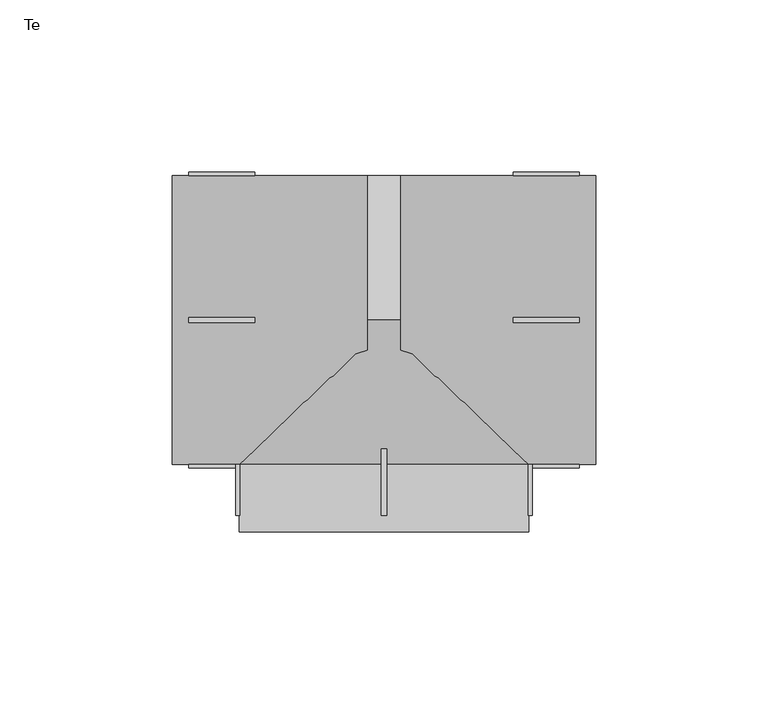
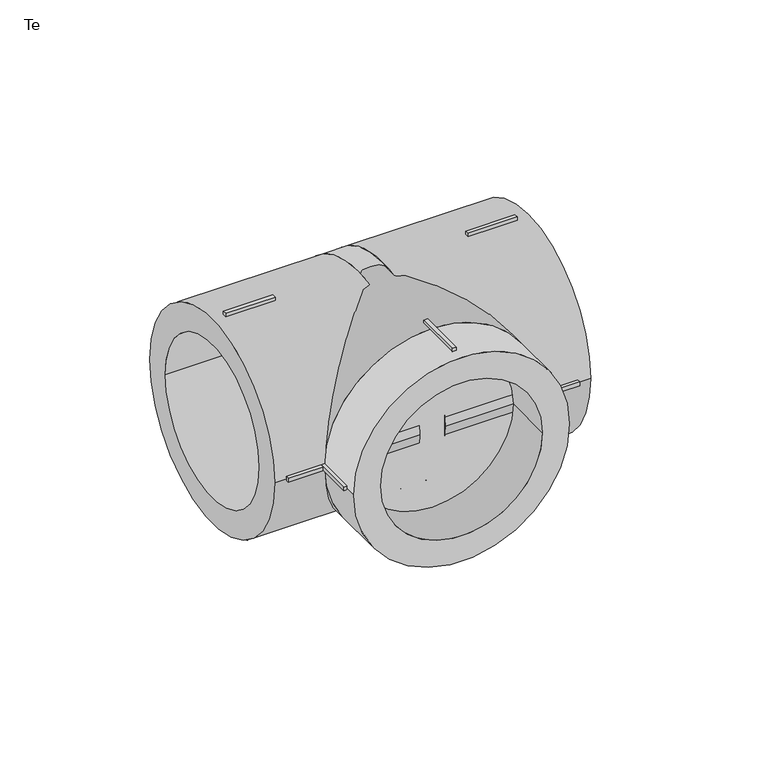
"""IFC4 building model written with IfcOpenShell, lengths in millimetres: pipe fitting geometry, EGB_VASEN_ PPR_Te WXR300_Te reducida WXR310 : Te."""

from ifc_helpers import new_model, si_unit, point, frame, origin, origin_2d, place, context, project, spatial, polyline, circle_curve, trimmed, segment, composite_curve, outline, extrude, source, transform, mapped, element, save


def te_da2c7948(model_context):
    return source(origin(), model_context, "Body", "SweptSolid", [
        extrude(outline(polyline([(-0.75, -37.5), (0.75, -37.5), (0.75, -56.7), (-0.75, -56.7), (-0.75, -37.5)])), frame((0.0, 0.0, 41.0), z_axis=(0.0, 0.0, 1.0), x_axis=(1.0, 0.0, 0.0)), (0.0, 0.0, 1.0), 2.0),
        extrude(outline(polyline([(-0.75, -37.5), (0.75, -37.5), (0.75, -56.7), (-0.75, -56.7), (-0.75, -37.5)])), frame((0.0, 0.0, -43.0), z_axis=(0.0, 0.0, 1.0), x_axis=(1.0, 0.0, 0.0)), (0.0, 0.0, 1.0), 2.0),
        extrude(outline(polyline([(41.0, -37.5), (43.0, -37.5), (43.0, -56.7), (41.0, -56.7), (41.0, -37.5)])), frame((0.0, 0.0, -0.75), z_axis=(0.0, 0.0, 1.0), x_axis=(1.0, 0.0, 0.0)), (0.0, 0.0, 1.0), 1.5),
        extrude(outline(polyline([(-43.0, -37.5), (-41.0, -37.5), (-41.0, -56.7), (-43.0, -56.7), (-43.0, -37.5)])), frame((0.0, 0.0, -0.75), z_axis=(0.0, 0.0, 1.0), x_axis=(1.0, 0.0, 0.0)), (0.0, 0.0, 1.0), 1.5),
        extrude(outline(polyline([(37.5, -0.75), (37.5, 0.75), (56.7, 0.75), (56.7, -0.75), (37.5, -0.75)])), frame((0.0, 0.0, 41.0), z_axis=(0.0, 0.0, 1.0), x_axis=(1.0, 0.0, 0.0)), (0.0, 0.0, 1.0), 2.0),
        extrude(outline(polyline([(37.5, -0.75), (37.5, 0.75), (56.7, 0.75), (56.7, -0.75), (37.5, -0.75)])), frame((0.0, 0.0, -43.0), z_axis=(0.0, 0.0, 1.0), x_axis=(1.0, 0.0, 0.0)), (0.0, 0.0, 1.0), 2.0),
        extrude(outline(polyline([(37.5, 41.0), (37.5, 43.0), (56.7, 43.0), (56.7, 41.0), (37.5, 41.0)])), frame((0.0, 0.0, -0.75), z_axis=(0.0, 0.0, 1.0), x_axis=(1.0, 0.0, 0.0)), (0.0, 0.0, 1.0), 1.5),
        extrude(outline(polyline([(37.5, -43.0), (37.5, -41.0), (56.7, -41.0), (56.7, -43.0), (37.5, -43.0)])), frame((0.0, 0.0, -0.75), z_axis=(0.0, 0.0, 1.0), x_axis=(1.0, 0.0, 0.0)), (0.0, 0.0, 1.0), 1.5),
        extrude(outline(polyline([(-37.5, 0.75), (-37.5, -0.75), (-56.7, -0.75), (-56.7, 0.75), (-37.5, 0.75)])), frame((0.0, 0.0, 41.0), z_axis=(0.0, 0.0, 1.0), x_axis=(1.0, 0.0, 0.0)), (0.0, 0.0, 1.0), 2.0),
        extrude(outline(polyline([(-37.5, 0.75), (-37.5, -0.75), (-56.7, -0.75), (-56.7, 0.75), (-37.5, 0.75)])), frame((0.0, 0.0, -43.0), z_axis=(0.0, 0.0, 1.0), x_axis=(1.0, 0.0, 0.0)), (0.0, 0.0, 1.0), 2.0),
        extrude(outline(polyline([(-37.5, 43.0), (-37.5, 41.0), (-56.7, 41.0), (-56.7, 43.0), (-37.5, 43.0)])), frame((0.0, 0.0, -0.75), z_axis=(0.0, 0.0, 1.0), x_axis=(1.0, 0.0, 0.0)), (0.0, 0.0, 1.0), 1.5),
        extrude(outline(polyline([(-37.5, -41.0), (-37.5, -43.0), (-56.7, -43.0), (-56.7, -41.0), (-37.5, -41.0)])), frame((0.0, 0.0, -0.75), z_axis=(0.0, 0.0, 1.0), x_axis=(1.0, 0.0, 0.0)), (0.0, 0.0, 1.0), 1.5),
        extrude(outline(composite_curve([segment(trimmed(circle_curve(origin_2d(), 42.0), [point((0.0, 42.0))], [point((0.0, -42.0))], False, "CARTESIAN"), True, "CONTINUOUS"), segment(trimmed(circle_curve(origin_2d(), 42.0), [point((0.0, -42.0))], [point((0.0, 42.0))], False, "CARTESIAN"), True, "CONTINUOUS")], self_intersect=False), holes=[composite_curve([segment(trimmed(circle_curve(origin_2d(), 31.5), [point((0.0, 31.5))], [point((0.0, -31.5))], True, "CARTESIAN"), True, "CONTINUOUS"), segment(trimmed(circle_curve(origin_2d(), 31.5), [point((0.0, -31.5))], [point((0.0, 31.5))], True, "CARTESIAN"), True, "CONTINUOUS")], self_intersect=False)]), frame((0.0, -61.5, 0.0), z_axis=(0.0, 1.0, 0.0), x_axis=(0.0, 0.0, 1.0)), (0.0, 0.0, 1.0), 19.5),
        extrude(outline(composite_curve([segment(trimmed(circle_curve(origin_2d(), 42.0), [point((-42.0, 0.0))], [point((42.0, 0.0))], False, "CARTESIAN"), True, "CONTINUOUS"), segment(trimmed(circle_curve(origin_2d(), 42.0), [point((42.0, 0.0))], [point((-42.0, 0.0))], False, "CARTESIAN"), True, "CONTINUOUS")], self_intersect=False), holes=[composite_curve([segment(trimmed(circle_curve(origin_2d(), 31.5), [point((-31.5, 0.0))], [point((31.5, 0.0))], True, "CARTESIAN"), True, "CONTINUOUS"), segment(trimmed(circle_curve(origin_2d(), 31.5), [point((31.5, 0.0))], [point((-31.5, 0.0))], True, "CARTESIAN"), True, "CONTINUOUS")], self_intersect=False)]), frame((4.92, 0.0, 0.0), z_axis=(1.0, 0.0, 0.0), x_axis=(0.0, 1.0, 0.0)), (0.0, 0.0, 1.0), 56.58),
        extrude(outline(composite_curve([segment(trimmed(circle_curve(origin_2d(), 42.0), [point((-42.0, 0.0))], [point((42.0, 0.0))], False, "CARTESIAN"), True, "CONTINUOUS"), segment(trimmed(circle_curve(origin_2d(), 42.0), [point((42.0, 0.0))], [point((-42.0, 0.0))], False, "CARTESIAN"), True, "CONTINUOUS")], self_intersect=False), holes=[composite_curve([segment(trimmed(circle_curve(origin_2d(), 31.5), [point((-31.5, 0.0))], [point((31.5, 0.0))], True, "CARTESIAN"), True, "CONTINUOUS"), segment(trimmed(circle_curve(origin_2d(), 31.5), [point((31.5, 0.0))], [point((-31.5, 0.0))], True, "CARTESIAN"), True, "CONTINUOUS")], self_intersect=False)]), frame((-61.5, 0.0, 0.0), z_axis=(1.0, 0.0, 0.0), x_axis=(0.0, 1.0, 0.0)), (0.0, 0.0, 1.0), 56.58),
        extrude(outline(composite_curve([segment(trimmed(circle_curve(origin_2d(), 42.0), [point((0.0, 42.0))], [point((0.0, -42.0))], False, "CARTESIAN"), True, "CONTINUOUS"), segment(trimmed(circle_curve(origin_2d(), 42.0), [point((0.0, -42.0))], [point((0.0, 42.0))], False, "CARTESIAN"), True, "CONTINUOUS")], self_intersect=False)), frame((0.0, -42.0, 0.0), z_axis=(0.0, 1.0, 0.0), x_axis=(0.0, 0.0, 1.0)), (0.0, 0.0, 1.0), 42.0),
        extrude(outline(composite_curve([segment(trimmed(circle_curve(origin_2d(), 42.0), [point((-42.0, 0.0))], [point((42.0, 0.0))], False, "CARTESIAN"), True, "CONTINUOUS"), segment(trimmed(circle_curve(origin_2d(), 42.0), [point((42.0, 0.0))], [point((-42.0, 0.0))], False, "CARTESIAN"), True, "CONTINUOUS")], self_intersect=False)), frame((-4.92, 0.0, 0.0), z_axis=(1.0, 0.0, 0.0), x_axis=(0.0, 1.0, 0.0)), (0.0, 0.0, 1.0), 9.84),
    ])


if __name__ == "__main__":
    model = new_model("IFC4")
    model_context = context("Model", 3, world=origin())
    ifc_project = project(units=[si_unit("LENGTHUNIT", "METRE", prefix="MILLI")], contexts=[model_context])
    site = spatial("IfcSite", under=ifc_project)
    building = spatial("IfcBuilding", under=site)
    placement = place(None, origin())
    te_shape = te_da2c7948(model_context)
    element("IfcPipeFitting", 1, ObjectType="EGB_VASEN_ PPR_Te WXR300_Te reducida WXR310 : Te", at=placement, inside=building, context=model_context, shape_type="MappedRepresentation", body=[
        mapped(te_shape, transform((0.0, 0.0, 0.0), x_axis=(1.0, 0.0, 0.0), y_axis=(0.0, 1.0, 0.0), z_axis=(0.0, 0.0, 1.0))),
    ])
    save(model, "model.ifc")
